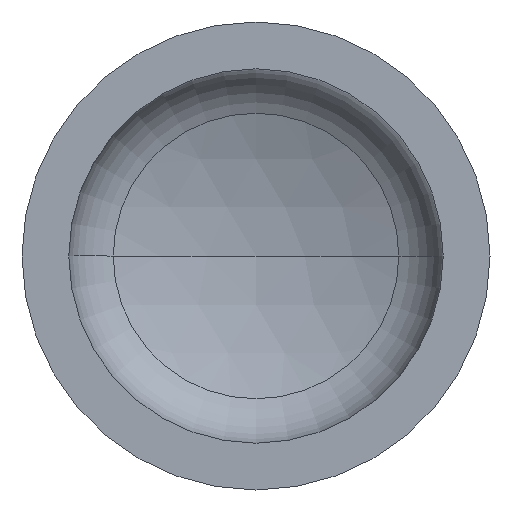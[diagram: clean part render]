
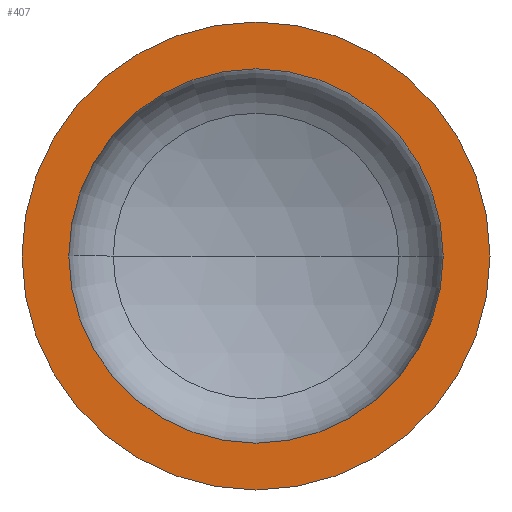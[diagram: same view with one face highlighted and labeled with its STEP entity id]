
A CAD part, front view. The second image highlights one B-rep face of the part: STEP entity #407.
In plain terms, the highlighted planar face has unit normal (0, -1, 0).
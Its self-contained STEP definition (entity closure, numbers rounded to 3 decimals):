
#18 = AXIS2_PLACEMENT_3D ( 'NONE', #51, #291, #129 ) ;
#22 = VERTEX_POINT ( 'NONE', #201 ) ;
#29 = ORIENTED_EDGE ( 'NONE', *, *, #367, .T. ) ;
#43 = DIRECTION ( 'NONE',  ( 1., 0., 0. ) ) ;
#51 = CARTESIAN_POINT ( 'NONE',  ( 0., 0., 0. ) ) ;
#52 = DIRECTION ( 'NONE',  ( 0., -1., 0. ) ) ;
#55 = VERTEX_POINT ( 'NONE', #187 ) ;
#56 = AXIS2_PLACEMENT_3D ( 'NONE', #71, #52, #43 ) ;
#63 = AXIS2_PLACEMENT_3D ( 'NONE', #156, #152, #254 ) ;
#71 = CARTESIAN_POINT ( 'NONE',  ( 0., 0., 0. ) ) ;
#78 = EDGE_CURVE ( 'NONE', #144, #55, #382, .T. ) ;
#80 = EDGE_CURVE ( 'NONE', #143, #22, #274, .T. ) ;
#99 = ORIENTED_EDGE ( 'NONE', *, *, #78, .T. ) ;
#107 = ORIENTED_EDGE ( 'NONE', *, *, #80, .F. ) ;
#116 = EDGE_LOOP ( 'NONE', ( #107, #219 ) ) ;
#129 = DIRECTION ( 'NONE',  ( 1., 0., 0. ) ) ;
#143 = VERTEX_POINT ( 'NONE', #329 ) ;
#144 = VERTEX_POINT ( 'NONE', #242 ) ;
#152 = DIRECTION ( 'NONE',  ( 0., -1., 0. ) ) ;
#154 = EDGE_LOOP ( 'NONE', ( #29, #99 ) ) ;
#156 = CARTESIAN_POINT ( 'NONE',  ( 0., 0., 0. ) ) ;
#187 = CARTESIAN_POINT ( 'NONE',  ( 300., 0., 0. ) ) ;
#190 = AXIS2_PLACEMENT_3D ( 'NONE', #335, #200, #359 ) ;
#197 = FACE_BOUND ( 'NONE', #116, .T. ) ;
#200 = DIRECTION ( 'NONE',  ( 0., -1., 0. ) ) ;
#201 = CARTESIAN_POINT ( 'NONE',  ( -240., 0., 0. ) ) ;
#206 = DIRECTION ( 'NONE',  ( -1., 0., 0. ) ) ;
#219 = ORIENTED_EDGE ( 'NONE', *, *, #330, .F. ) ;
#231 = CIRCLE ( 'NONE', #18, 240. ) ;
#242 = CARTESIAN_POINT ( 'NONE',  ( -300., 0., 0. ) ) ;
#254 = DIRECTION ( 'NONE',  ( 1., 0., 0. ) ) ;
#274 = CIRCLE ( 'NONE', #56, 240. ) ;
#291 = DIRECTION ( 'NONE',  ( 0., -1., 0. ) ) ;
#324 = AXIS2_PLACEMENT_3D ( 'NONE', #406, #339, #206 ) ;
#329 = CARTESIAN_POINT ( 'NONE',  ( 240., 0., 0. ) ) ;
#330 = EDGE_CURVE ( 'NONE', #22, #143, #231, .T. ) ;
#335 = CARTESIAN_POINT ( 'NONE',  ( 0., 0., 0. ) ) ;
#338 = PLANE ( 'NONE',  #324 ) ;
#339 = DIRECTION ( 'NONE',  ( 0., 1., 0. ) ) ;
#359 = DIRECTION ( 'NONE',  ( 1., 0., 0. ) ) ;
#367 = EDGE_CURVE ( 'NONE', #55, #144, #387, .T. ) ;
#370 = FACE_OUTER_BOUND ( 'NONE', #154, .T. ) ;
#382 = CIRCLE ( 'NONE', #63, 300. ) ;
#387 = CIRCLE ( 'NONE', #190, 300. ) ;
#406 = CARTESIAN_POINT ( 'NONE',  ( -300., 0., 0. ) ) ;
#407 = ADVANCED_FACE ( 'NONE', ( #197, #370 ), #338, .F. ) ;
